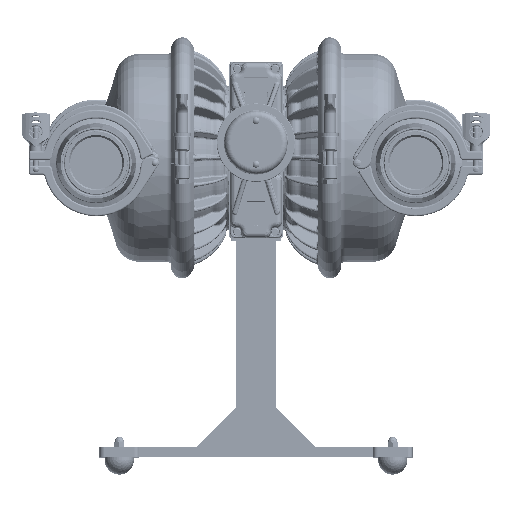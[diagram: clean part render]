
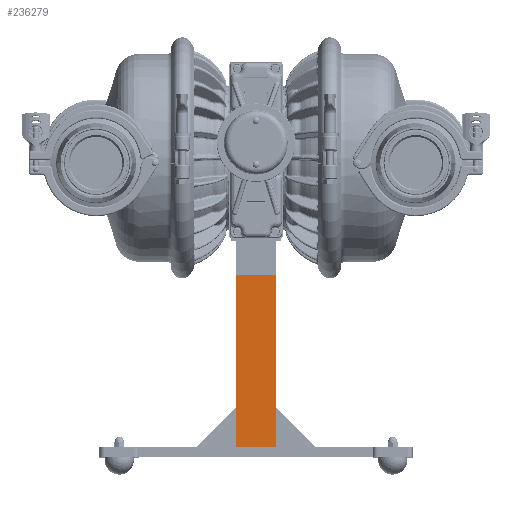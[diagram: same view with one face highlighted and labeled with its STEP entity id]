
A CAD part, top view. The second image highlights one B-rep face of the part: STEP entity #236279.
In plain terms, the highlighted planar face has unit normal (0, 0, 1).
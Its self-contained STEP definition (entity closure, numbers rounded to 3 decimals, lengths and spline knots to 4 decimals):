
#303 = EDGE_CURVE ( 'NONE', #221841, #133484, #552034, .T. ) ;
#13671 = CARTESIAN_POINT ( 'NONE',  ( -1., -14.56, -1.8981 ) ) ;
#17294 = DIRECTION ( 'NONE',  ( 0., -1., 0. ) ) ;
#18982 = VECTOR ( 'NONE', #177249, 39.3701 ) ;
#40104 = LINE ( 'NONE', #95760, #647969 ) ;
#45163 = CARTESIAN_POINT ( 'NONE',  ( -1., -5.88, -1.8981 ) ) ;
#72445 = EDGE_CURVE ( 'NONE', #260611, #133484, #102714, .T. ) ;
#95760 = CARTESIAN_POINT ( 'NONE',  ( 1., -5.88, -1.8981 ) ) ;
#102714 = LINE ( 'NONE', #204290, #495885 ) ;
#133011 = VERTEX_POINT ( 'NONE', #496557 ) ;
#133484 = VERTEX_POINT ( 'NONE', #13671 ) ;
#141944 = EDGE_CURVE ( 'NONE', #133011, #260611, #40104, .T. ) ;
#158484 = DIRECTION ( 'NONE',  ( -1., 0., 0. ) ) ;
#171091 = PLANE ( 'NONE',  #560649 ) ;
#173252 = ORIENTED_EDGE ( 'NONE', *, *, #72445, .T. ) ;
#177249 = DIRECTION ( 'NONE',  ( 0., -1., 0. ) ) ;
#204290 = CARTESIAN_POINT ( 'NONE',  ( -1., -5.88, -1.8981 ) ) ;
#221841 = VERTEX_POINT ( 'NONE', #540747 ) ;
#236279 = ADVANCED_FACE ( 'NONE', ( #620209 ), #171091, .T. ) ;
#244193 = EDGE_LOOP ( 'NONE', ( #173252, #394625, #274035, #487829 ) ) ;
#260611 = VERTEX_POINT ( 'NONE', #45163 ) ;
#274035 = ORIENTED_EDGE ( 'NONE', *, *, #641557, .F. ) ;
#321865 = DIRECTION ( 'NONE',  ( 0., 0., 1. ) ) ;
#361739 = CARTESIAN_POINT ( 'NONE',  ( 1., -14.56, -1.8981 ) ) ;
#373548 = VECTOR ( 'NONE', #158484, 39.3701 ) ;
#380506 = CARTESIAN_POINT ( 'NONE',  ( 1., -5.88, -1.8981 ) ) ;
#394625 = ORIENTED_EDGE ( 'NONE', *, *, #303, .F. ) ;
#397306 = DIRECTION ( 'NONE',  ( -1., 0., 0. ) ) ;
#487829 = ORIENTED_EDGE ( 'NONE', *, *, #141944, .T. ) ;
#495885 = VECTOR ( 'NONE', #17294, 39.3701 ) ;
#496557 = CARTESIAN_POINT ( 'NONE',  ( 1., -5.88, -1.8981 ) ) ;
#540747 = CARTESIAN_POINT ( 'NONE',  ( 1., -14.56, -1.8981 ) ) ;
#552034 = LINE ( 'NONE', #361739, #373548 ) ;
#560649 = AXIS2_PLACEMENT_3D ( 'NONE', #571121, #321865, #561428 ) ;
#561428 = DIRECTION ( 'NONE',  ( 1., 0., 0. ) ) ;
#570853 = LINE ( 'NONE', #380506, #18982 ) ;
#571121 = CARTESIAN_POINT ( 'NONE',  ( 1., -5.88, -1.8981 ) ) ;
#620209 = FACE_OUTER_BOUND ( 'NONE', #244193, .T. ) ;
#641557 = EDGE_CURVE ( 'NONE', #133011, #221841, #570853, .T. ) ;
#647969 = VECTOR ( 'NONE', #397306, 39.3701 ) ;
